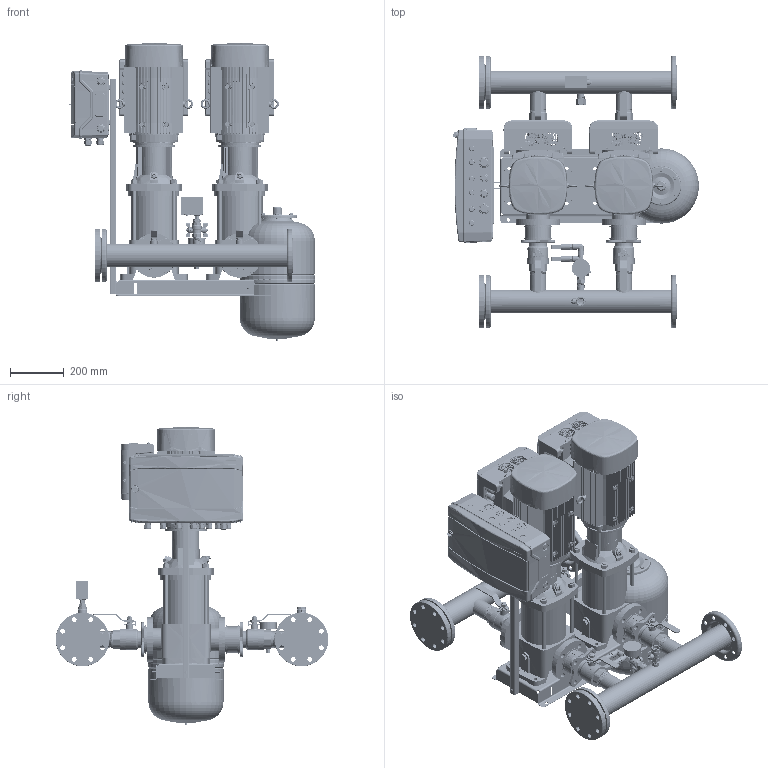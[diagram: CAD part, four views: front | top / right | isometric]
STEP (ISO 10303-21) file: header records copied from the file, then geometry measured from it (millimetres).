
FILE_DESCRIPTION(('CATIA V5 STEP Exchange','CAx-IF Rec.Pracs.--- Model Styling and Organization---1.4--- 2014-01-23','CAx-IF Rec.Pracs.---3D Tessellated Data Validation Properties---0.5---2014-09-14'),'2;1');
FILE_NAME('C:\Users\78432\YandexDisk\Drawings and 3D\3D Hydro Booster\Hydro-ME 3D\Hydro Models\Hydro ME 2 CRV15_20-xx (DIN BV)\Hydro ME 2 CRVE15-4 (DIN BV).stp','2023-09-20T12:21:23+00:00',('none'),('none'),'CATIA Version 5-6 Release 2019 SP6','CATIA V5 STEP AP242 v1','none');
FILE_SCHEMA(('AP242_MANAGED_MODEL_BASED_3D_ENGINEERING_MIM_LF {1 0 10303 442 1 1 4}'));
Products named in the file (44): Hydro ME 2 CRVE15-4 (DIN BV); 92051008; CRV15-4 set (DIN bv); CRV 15-4_A_DIN_4kW; Base; Sleeve; Pumphead; Staybolt.1; Staybolt.2; Staybolt.3; Staybolt.4; Plug; AirVent; Motor; 00id2584; 92802785; 99273085; SAJ PDH30 4-7,5kW; 97941445; 405801; 91040270; 91070073; 99110037; 97941482; 00GW4890; Holder and CP 18mod; 92878909; Control ME (18mod); 2 sensors + manometer cpl.; manometr 16 bar; RPD-I-G1_2; 9021-01; 2070 1/2-1/2; _2020 1/2-1/2; 98594078; Tank 24L cpl.; DN20_FF_BF_47.300.20; WAV-24(D140 1''); 9021-03; Relay cpl.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
Assembly tree (54 placements, depth 4):
  Hydro ME 2 CRVE15-4 (DIN BV)
    92051008
    CRV15-4 set (DIN bv)  x2
      CRV 15-4_A_DIN_4kW
        Base
        Sleeve
        Pumphead
        Staybolt.1
        Staybolt.2
        Staybolt.3
        Staybolt.4
        Plug
        AirVent
        Motor
      00id2584
      92802785
      99273085
      SAJ PDH30 4-7,5kW
    97941445  x2
      405801
      91040270
      91070073
      99110037
      97941482
    00GW4890  x2
    Holder and CP 18mod
      92878909
      Control ME (18mod)
    2 sensors + manometer cpl.
      manometr 16 bar
      RPD-I-G1_2  x2
      9021-01
      2070 1/2-1/2
      _2020 1/2-1/2
      98594078
    Tank 24L cpl.
      DN20_FF_BF_47.300.20
      9021-03
    Relay cpl.
      Relay RD-2R
      DN20_FF_BF_47.300.20
      2530 3/4-1/2
      _2530 1/2-1/4
    91078139
  WAV-24(D140 1'')
Bounding box: 916.82 x 1016.5 x 1110.77 mm (x, y, z)
Volume: 85491648.5 mm3; surface area: 8746141.8 mm2
Topology: 232 solids, 262 shells, 24023 faces, 78670 edges, 55918 vertices
Faces by surface type: plane 10080, cylinder 6409, bspline 5356, cone 1499, torus 498, sphere 181
Entity records: 684152 total; most frequent: CARTESIAN_POINT 354683, ORIENTED_EDGE 86043, EDGE_CURVE 43562, DIRECTION 37914, VERTEX_POINT 29941, B_SPLINE_CURVE_WITH_KNOTS 18503, VECTOR 17851, LINE 17851
